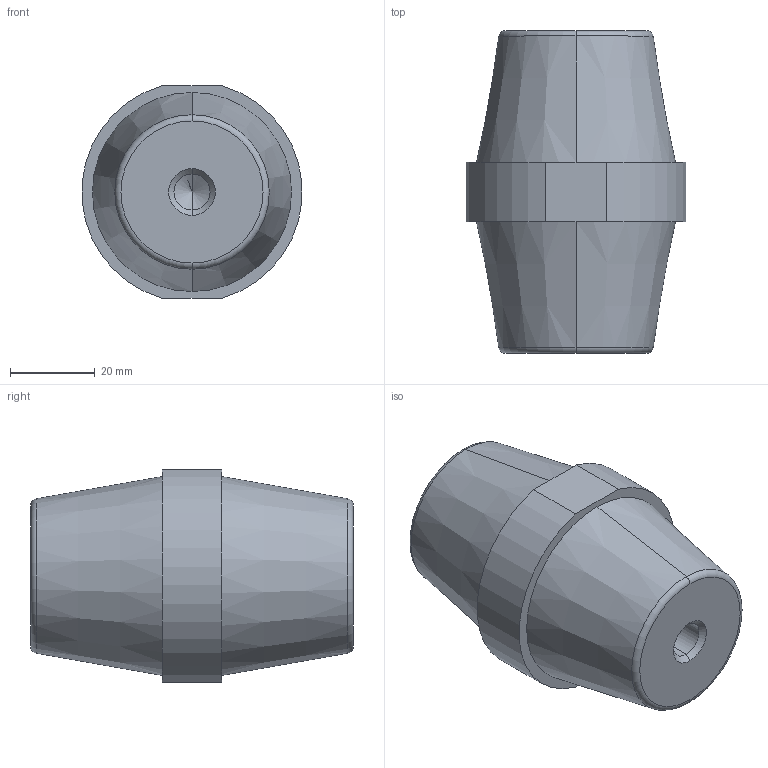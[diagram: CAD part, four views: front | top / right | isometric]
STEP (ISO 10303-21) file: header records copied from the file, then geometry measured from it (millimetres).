
FILE_DESCRIPTION (( 'STEP AP203' ), '1' );
FILE_NAME ('SM76.STEP', '2023-01-20T07:12:06', ( '' ), ( '' ), 'SwSTEP 2.0', 'SolidWorks 2018', '' );
FILE_SCHEMA (( 'CONFIG_CONTROL_DESIGN' ));
Length unit declared in the file: millimetre
Products named in the file (1): SM76
Bounding box: 51.81 x 76 x 50 mm (x, y, z)
Volume: 111651.6 mm3; surface area: 14008.1 mm2
Topology: 1 solids, 1 shells, 28 faces, 60 edges, 34 vertices
Faces by surface type: cone 12, cylinder 6, plane 6, torus 4
Entity records: 809 total; most frequent: DIRECTION 146, CARTESIAN_POINT 119, ORIENTED_EDGE 112, AXIS2_PLACEMENT_3D 61, EDGE_CURVE 56, VERTEX_POINT 34, CIRCLE 32, EDGE_LOOP 32
